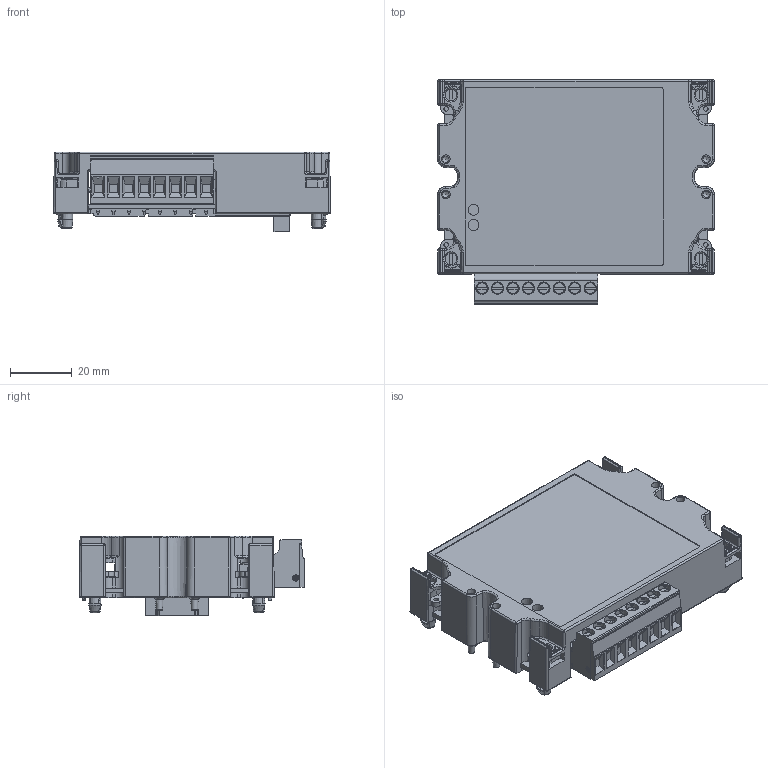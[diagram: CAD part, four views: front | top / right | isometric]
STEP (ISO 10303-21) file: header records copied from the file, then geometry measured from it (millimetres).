
FILE_DESCRIPTION(/* description */ (''),/* implementation_level */ '2;1');
FILE_NAME(/* name */ 'D:\Meccanica\MC485232M\Assieme MC485232M.stp',/* time_stamp */ '2016-03-10T14:59:31+01:00',/* author */ ('sditommaso'),/* organization */ (''),/* preprocessor_version */ 'ST-DEVELOPER v16.1',/* originating_system */ 'Autodesk Inventor 2016',/* authorisation */ '');
FILE_SCHEMA (('AUTOMOTIVE_DESIGN { 1 0 10303 214 3 1 1 }'));
Products named in the file (1): Assieme MC485232M_Shrinkwrap_1
Bounding box: 89.49 x 72.78 x 25.82 mm (x, y, z)
Surface area: 44331.5 mm2
Topology: 1 solids, 6 shells, 3211 faces, 9265 edges, 5899 vertices
Faces by surface type: plane 2016, cylinder 631, bspline 239, cone 189, torus 102, sphere 34
Full cylindrical faces by diameter (mm): 1.2 x2, 1.3 x9, 1.5 x46, 1.52 x1, 1.7 x1, 2 x1, 2.2 x9, 2.75 x8, 3.7 x8, 3.85 x8, 4 x18, 4.5 x2
Entity records: 113437 total; most frequent: CARTESIAN_POINT 28424, ORIENTED_EDGE 17716, DIRECTION 15889, EDGE_CURVE 8858, LINE 5843, VECTOR 5843, VERTEX_POINT 5781, AXIS2_PLACEMENT_3D 5023
